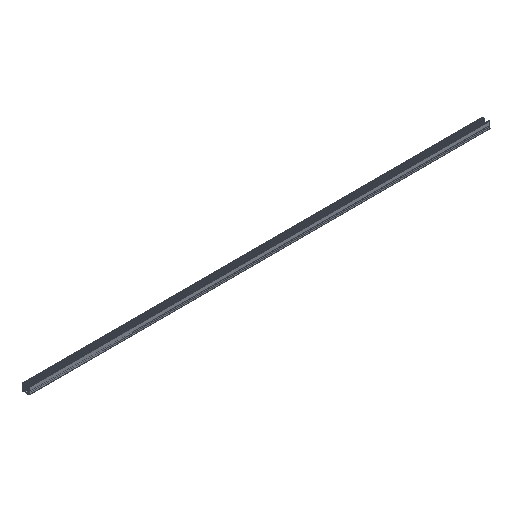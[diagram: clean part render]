
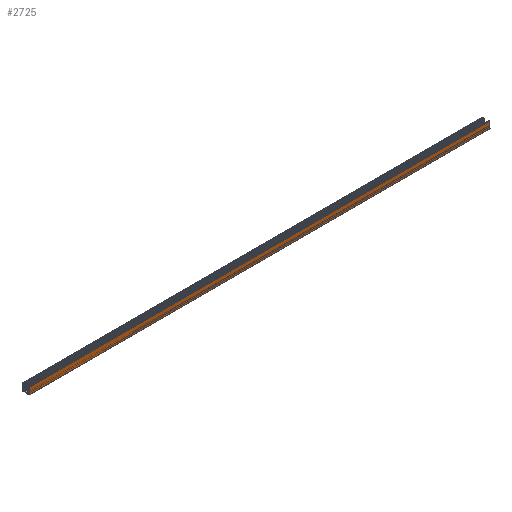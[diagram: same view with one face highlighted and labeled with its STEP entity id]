
A CAD part, isometric view. The second image highlights one B-rep face of the part: STEP entity #2725.
In plain terms, the highlighted planar face has unit normal (0, -1, 0).
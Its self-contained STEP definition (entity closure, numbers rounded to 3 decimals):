
#303=FACE_OUTER_BOUND('',#451,.T.);
#451=EDGE_LOOP('',(#1947,#1948,#1949,#1950));
#647=LINE('',#3787,#907);
#648=LINE('',#3790,#908);
#649=LINE('',#3792,#909);
#650=LINE('',#3793,#910);
#907=VECTOR('',#3226,10.);
#908=VECTOR('',#3229,10.);
#909=VECTOR('',#3230,10.);
#910=VECTOR('',#3231,10.);
#1159=VERTEX_POINT('',#3783);
#1160=VERTEX_POINT('',#3785);
#1161=VERTEX_POINT('',#3789);
#1162=VERTEX_POINT('',#3791);
#1479=EDGE_CURVE('',#1159,#1160,#647,.T.);
#1480=EDGE_CURVE('',#1159,#1161,#648,.T.);
#1481=EDGE_CURVE('',#1162,#1160,#649,.T.);
#1482=EDGE_CURVE('',#1161,#1162,#650,.T.);
#1947=ORIENTED_EDGE('',*,*,#1480,.F.);
#1948=ORIENTED_EDGE('',*,*,#1479,.T.);
#1949=ORIENTED_EDGE('',*,*,#1481,.F.);
#1950=ORIENTED_EDGE('',*,*,#1482,.F.);
#2643=PLANE('',#2919);
#2725=ADVANCED_FACE('',(#303),#2643,.T.);
#2919=AXIS2_PLACEMENT_3D('',#3788,#3227,#3228);
#3226=DIRECTION('',(1.,0.,0.));
#3227=DIRECTION('center_axis',(0.,-1.,0.));
#3228=DIRECTION('ref_axis',(0.,0.,
-1.));
#3229=DIRECTION('',(0.,0.,1.));
#3230=DIRECTION('',(0.,0.,-1.));
#3231=DIRECTION('',(1.,0.,0.));
#3783=CARTESIAN_POINT('',(0.,-7.929,0.3));
#3785=CARTESIAN_POINT('',(1000.,-7.929,0.3));
#3787=CARTESIAN_POINT('',(0.,-7.929,0.3));
#3788=CARTESIAN_POINT('Origin',(0.,-7.929,
14.496));
#3789=CARTESIAN_POINT('',(0.,-7.929,14.496));
#3790=CARTESIAN_POINT('',(0.,-7.929,0.3));
#3791=CARTESIAN_POINT('',(1000.,-7.929,14.496));
#3792=CARTESIAN_POINT('',(1000.,-7.929,0.3));
#3793=CARTESIAN_POINT('',(0.,-7.929,14.496));
